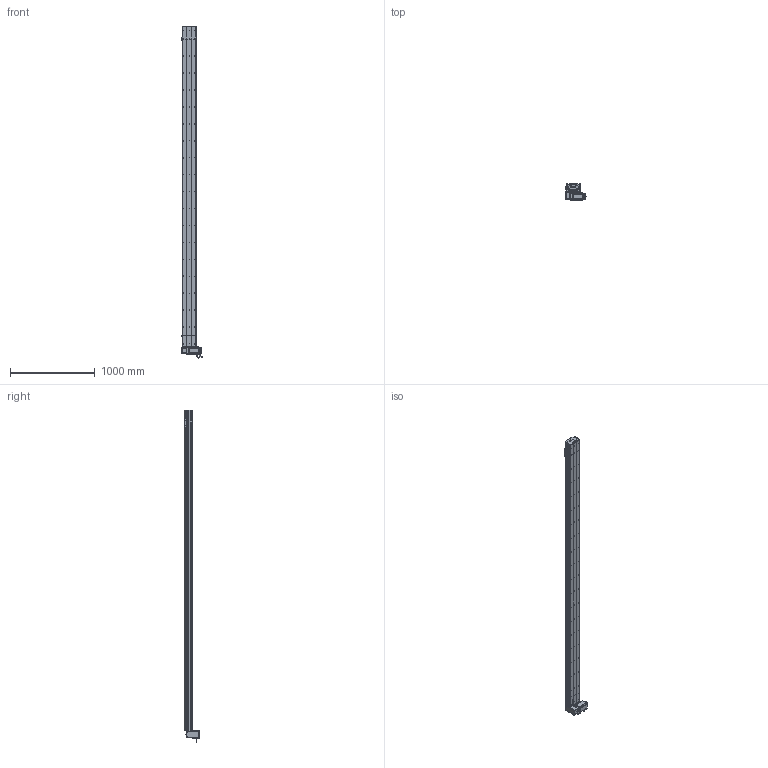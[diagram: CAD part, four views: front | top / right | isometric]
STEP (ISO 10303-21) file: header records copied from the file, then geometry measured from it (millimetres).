
FILE_DESCRIPTION (( 'STEP AP214' ), '1' );
FILE_NAME ('D17 TBN RU S3500.STEP', '2010-06-30T13:55:44', ( 'Conseil Régional Haute-Normandie' ), ( 'Conseil Régional Haute-Normandie' ), 'SwSTEP 2.0', 'SolidWorks 2010', '' );
FILE_SCHEMA (( 'AUTOMOTIVE_DESIGN' ));
Length unit declared in the file: millimetre
Products named in the file (40): Plaque racord D17_Default; guide D17; Chariot D17 TBN; chariot D17 TBN; vis M5 L25_Default; Couroie tail D17B_Default; poulie tail_Default; plaque de  bout tail D17B_Default; vis M5 L12_Default; vis M5 L8 90°_Default; couvercle D17B_Default; Rail D17B; tete d''axe poulie D17B; corp tail D17B+100_Default; Tail D17B+100_Default; Renvoi RU_Default; cache arbre D17_Default; Vis M5 L16-2_Default; vis M5 L16_Default; Couroie+ rail D17 Course 3500 ; course 3500 D17B_Default; D17 TBN RU S3500; Head RU D17B_Default; couvercle D17B course L3500_Default; corp D17B 3500_Default; plaque de  bout head D17B RU_Default; couvercle D17B head_Default; corpl head D17 _Default; vis M5 L5_Default; cache D17_Default; Arbre+rail head D17B; Moteur motionking 90BLDC125A-640; couroie head D17_Default; poulie head_Default; codeur 90BLDC125-640; corps 90BLDC125A-640; avant 90BLDC125A-640; vis M5 L70_Default; Conecteur_Default; Conecteur2_Default
Assembly tree (66 placements, depth 4):
  D17 TBN RU S3500
    course 3500 D17B_Default
      Couroie+ rail D17 Course 3500 
      corp D17B 3500_Default
      couvercle D17B course L3500_Default
    Tail D17B+100_Default
      plaque de  bout tail D17B_Default
      tete d''axe poulie D17B
      corp tail D17B+100_Default
      vis M5 L12_Default  x4
      Rail D17B
      poulie tail_Default
      couvercle D17B_Default
      vis M5 L8 90°_Default  x2
      Couroie tail D17B_Default
      vis M5 L25_Default  x2
    Head RU D17B_Default
      vis M5 L12_Default  x8
      corpl head D17 _Default
      vis M5 L70_Default  x4
      cache D17_Default  x2
      Vis M5 L16-2_Default  x4
      vis M5 L16_Default  x2
      couroie head D17_Default
      Moteur motionking 90BLDC125A-640
        Conecteur_Default
        codeur 90BLDC125-640
        avant 90BLDC125A-640
        corps 90BLDC125A-640
        Conecteur2_Default
      cache arbre D17_Default
      vis M5 L25_Default  x2
      vis M5 L5_Default  x4
      poulie head_Default
      couvercle D17B head_Default
      plaque de  bout head D17B RU_Default
      Arbre+rail head D17B
      Renvoi RU_Default
      Plaque racord D17_Default
    chariot D17 TBN
      guide D17  x2
      Chariot D17 TBN
Bounding box: 245.2 x 188.65 x 3917.95 mm (x, y, z)
Volume: 21904146.7 mm3; surface area: 6430510.3 mm2
Topology: 89 solids, 89 shells, 2691 faces, 6975 edges, 4494 vertices
Faces by surface type: plane 1537, cylinder 857, bspline 136, cone 80, torus 77, sphere 4
Entity records: 88125 total; most frequent: CARTESIAN_POINT 25981, ORIENTED_EDGE 11122, DIRECTION 10478, EDGE_CURVE 5561, VERTEX_POINT 3638, LINE 3588, VECTOR 3588, AXIS2_PLACEMENT_3D 3445
